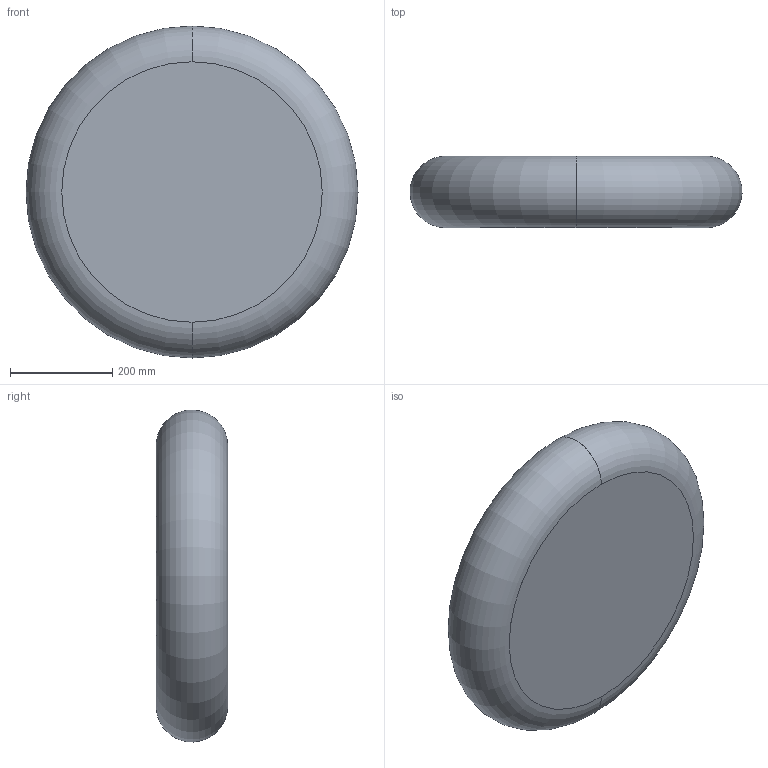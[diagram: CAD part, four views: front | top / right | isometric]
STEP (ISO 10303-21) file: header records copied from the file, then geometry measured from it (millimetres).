
FILE_DESCRIPTION (( 'STEP AP214' ), '1' );
FILE_NAME ('ÒÏ69.00.00.002 Ýêðàí íèæíèé (âûòÿæêà) 020720.STEP', '2020-07-06T13:23:35', ( '' ), ( '' ), 'SwSTEP 2.0', 'SolidWorks 2018', '' );
FILE_SCHEMA (( 'AUTOMOTIVE_DESIGN' ));
Length unit declared in the file: millimetre
Products named in the file (1): ÒÏ69.00.00.002 Ýêðàí íèæíèé (âûòÿæêà) 020720
Bounding box: 649.92 x 139.84 x 649.92 mm (x, y, z)
Volume: 1378983.3 mm3; surface area: 1381589 mm2
Topology: 1 solids, 1 shells, 8 faces, 14 edges, 8 vertices
Faces by surface type: torus 4, cone 2, plane 2
Entity records: 232 total; most frequent: DIRECTION 44, CARTESIAN_POINT 31, ORIENTED_EDGE 28, AXIS2_PLACEMENT_3D 21, EDGE_CURVE 14, CIRCLE 12, VERTEX_POINT 8, EDGE_LOOP 8
